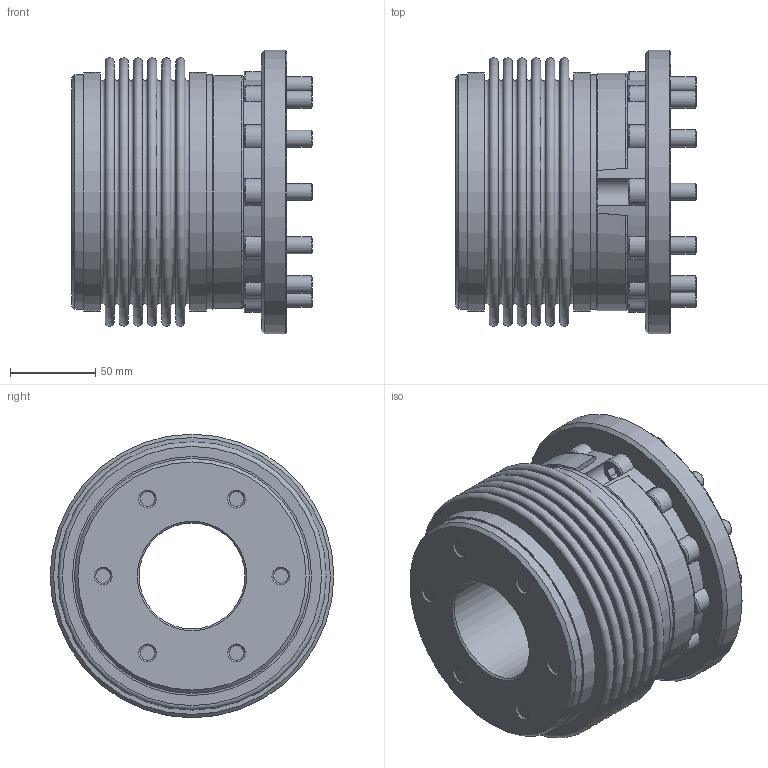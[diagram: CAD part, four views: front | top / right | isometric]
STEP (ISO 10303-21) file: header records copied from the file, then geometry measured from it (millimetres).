
FILE_DESCRIPTION( ( 'Unknown' ), '1' );
FILE_NAME( 'F:/JAKOB-STEP+IGES-Dateien/STEP-Dateien/KPP-F/KPP-F 1600.stp', 'Unknown', ( 'Unknown' ), ( 'Unknown' ), 'PSStep 10.1', 'Unknown', ' ' );
FILE_SCHEMA( ( 'AUTOMOTIVE_DESIGN { 1 0 10303 214 1 1 1 1 }' ) );
Length unit declared in the file: millimetre
Products named in the file (1): 28521473
Bounding box: 140.99 x 166 x 166 mm (x, y, z)
Volume: 1211437.7 mm3; surface area: 395888.2 mm2
Topology: 1 solids, 1 shells, 579 faces, 1345 edges, 833 vertices
Faces by surface type: plane 333, cylinder 109, cone 88, torus 49
Full cylindrical faces by diameter (mm): 8.5 x2, 10 x18, 10.5 x18, 16 x18, 16.4 x2, 17 x10, 62 x1, 65 x1, 72 x1, 80 x1, 126 x1, 137.5 x2, 139.9 x2, 160 x1, 166 x1
Entity records: 19672 total; most frequent: DIRECTION 2762, CARTESIAN_POINT 2502, ORIENTED_EDGE 2150, AXIS2_PLACEMENT_3D 1119, EDGE_CURVE 1075, EDGE_LOOP 916, VERTEX_POINT 787, FACE_OUTER_BOUND 703
